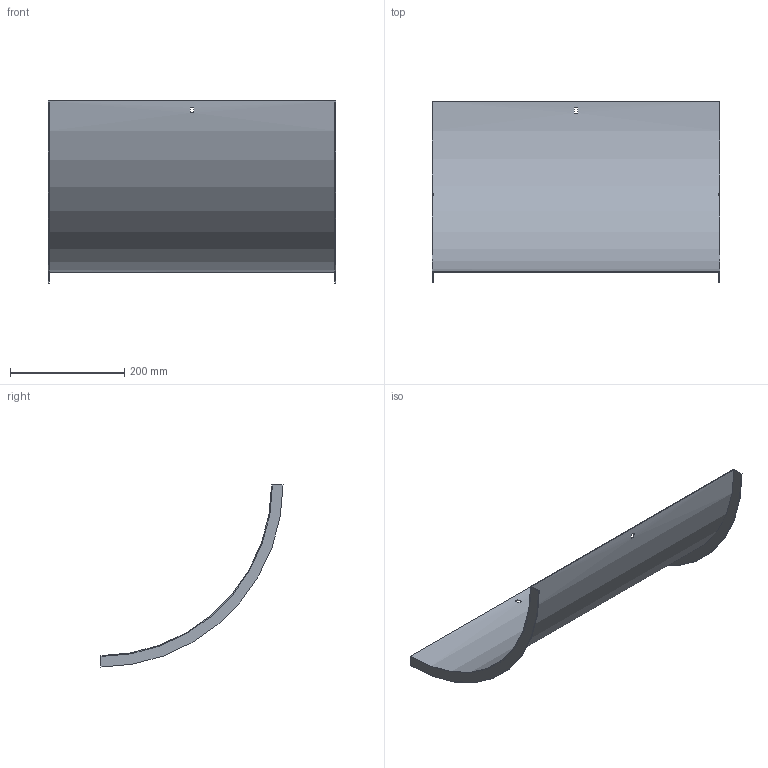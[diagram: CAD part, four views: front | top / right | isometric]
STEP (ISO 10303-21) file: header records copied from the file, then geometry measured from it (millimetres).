
FILE_DESCRIPTION (( 'STEP AP214' ), '1' );
FILE_NAME ('B2X30N3R500X.step', '2025-03-20T09:47:05', ( '' ), ( '' ), 'SwSTEP 2.0', 'SolidWorks 2023', '' );
FILE_SCHEMA (( 'AUTOMOTIVE_DESIGN' ));
Length unit declared in the file: millimetre
Products named in the file (1): B2X30N3R500X
Bounding box: 503 x 318.5 x 318.5 mm (x, y, z)
Volume: 381445.3 mm3; surface area: 511804.2 mm2
Topology: 1 solids, 1 shells, 18 faces, 48 edges, 32 vertices
Faces by surface type: plane 14, cylinder 4
Entity records: 599 total; most frequent: DIRECTION 102, CARTESIAN_POINT 99, ORIENTED_EDGE 96, EDGE_CURVE 48, AXIS2_PLACEMENT_3D 35, LINE 32, VERTEX_POINT 32, VECTOR 32
